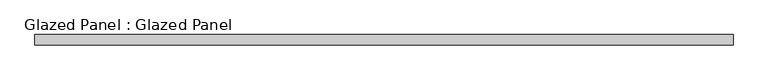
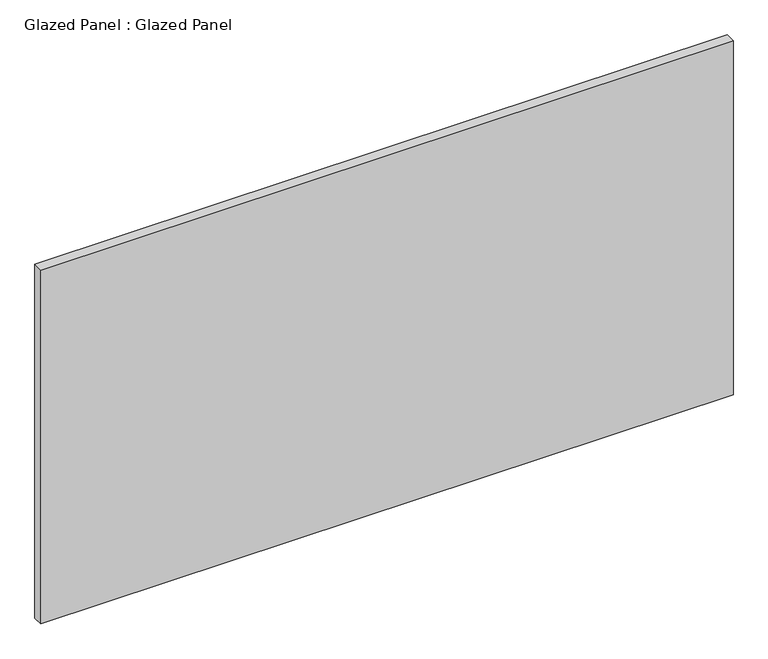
"""IFC4 building model written with IfcOpenShell, lengths in millimetres: plate geometry, Glazed Panel : Glazed Panel."""

from ifc_helpers import new_model, si_unit, origin, origin_with_axes, place, context, project, spatial, polyline, outline, extrude, source, transform, mapped, element, save


def glazed_panel_glazed_panel_cb309cff(model_context):
    return source(origin(), model_context, "Body", "SweptSolid", [
        extrude(outline(polyline([(851.7623557, 38.1), (-851.7623557, 38.1), (-851.7623557, 63.5), (851.7623557, 63.5), (851.7623557, 38.1)])), origin_with_axes(), (0.0, 0.0, 1.0), 920.75),
    ])


if __name__ == "__main__":
    model = new_model("IFC4")
    model_context = context("Model", 3, world=origin())
    ifc_project = project(units=[si_unit("LENGTHUNIT", "METRE", prefix="MILLI")], contexts=[model_context])
    site = spatial("IfcSite", under=ifc_project)
    building = spatial("IfcBuilding", under=site)
    placement = place(None, origin())
    glazed_panel_glazed_panel_shape = glazed_panel_glazed_panel_cb309cff(model_context)
    element("IfcPlate", 1, ObjectType="Glazed Panel : Glazed Panel", at=placement, inside=building, context=model_context, shape_type="MappedRepresentation", body=[
        mapped(glazed_panel_glazed_panel_shape, transform((0.0, 0.0, 0.0), x_axis=(1.0, 0.0, 0.0), y_axis=(0.0, 1.0, 0.0), z_axis=(0.0, 0.0, 1.0))),
    ])
    save(model, "model.ifc")
